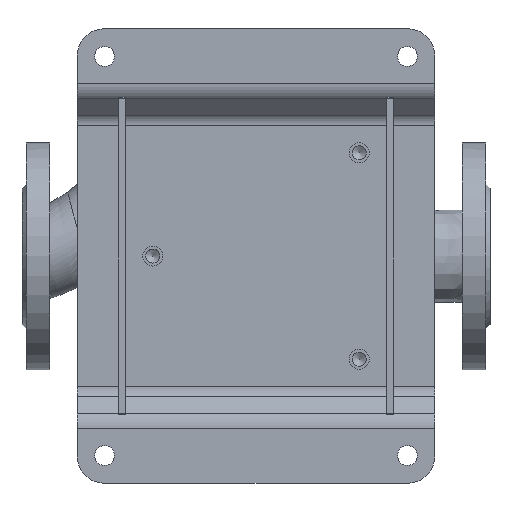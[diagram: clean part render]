
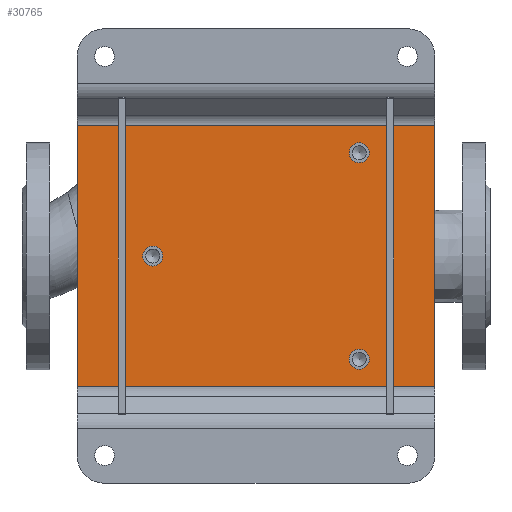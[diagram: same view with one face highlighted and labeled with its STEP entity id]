
A CAD part, top view. The second image highlights one B-rep face of the part: STEP entity #30765.
In plain terms, the highlighted planar face has unit normal (0, 0, 1) as drawn and (0, -1, 0) by its records, which use the part's own axes.
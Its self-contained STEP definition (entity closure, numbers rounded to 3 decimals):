
#36 = DIRECTION ( 'NONE',  ( 0., 0., -1. ) ) ;
#175 = DIRECTION ( 'NONE',  ( 0., 0., -1. ) ) ;
#216 = VECTOR ( 'NONE', #14994, 1000. ) ;
#1521 = VERTEX_POINT ( 'NONE', #12233 ) ;
#2152 = EDGE_LOOP ( 'NONE', ( #33842, #4675, #31597, #31366 ) ) ;
#2689 = CARTESIAN_POINT ( 'NONE',  ( 0., -5., 0. ) ) ;
#3160 = CIRCLE ( 'NONE', #8203, 7.25 ) ;
#3337 = FACE_OUTER_BOUND ( 'NONE', #2152, .T. ) ;
#4561 = CARTESIAN_POINT ( 'NONE',  ( 75., -5., 67.75 ) ) ;
#4675 = ORIENTED_EDGE ( 'NONE', *, *, #42482, .F. ) ;
#5789 = VERTEX_POINT ( 'NONE', #40546 ) ;
#6502 = DIRECTION ( 'NONE',  ( 0., -1., 0. ) ) ;
#6795 = CARTESIAN_POINT ( 'NONE',  ( 0., -5., -75. ) ) ;
#6915 = DIRECTION ( 'NONE',  ( 1., 0., 0. ) ) ;
#7403 = EDGE_CURVE ( 'NONE', #20119, #20119, #26560, .T. ) ;
#8203 = AXIS2_PLACEMENT_3D ( 'NONE', #24260, #40894, #175 ) ;
#8483 = CIRCLE ( 'NONE', #41476, 7.25 ) ;
#11239 = VECTOR ( 'NONE', #42030, 1000. ) ;
#12233 = CARTESIAN_POINT ( 'NONE',  ( -95., -5., 130. ) ) ;
#13935 = EDGE_CURVE ( 'NONE', #35392, #35392, #8483, .T. ) ;
#14994 = DIRECTION ( 'NONE',  ( 0., 0., -1. ) ) ;
#15113 = DIRECTION ( 'NONE',  ( 0., -1., 0. ) ) ;
#15263 = ORIENTED_EDGE ( 'NONE', *, *, #13935, .F. ) ;
#15395 = VERTEX_POINT ( 'NONE', #42826 ) ;
#15611 = VECTOR ( 'NONE', #6915, 1000. ) ;
#17107 = LINE ( 'NONE', #24539, #24722 ) ;
#17489 = EDGE_LOOP ( 'NONE', ( #15263 ) ) ;
#19810 = CARTESIAN_POINT ( 'NONE',  ( 95., -5., 130. ) ) ;
#20119 = VERTEX_POINT ( 'NONE', #30443 ) ;
#20532 = DIRECTION ( 'NONE',  ( 0., -1., 0. ) ) ;
#22311 = ORIENTED_EDGE ( 'NONE', *, *, #7403, .F. ) ;
#22755 = FACE_BOUND ( 'NONE', #17489, .T. ) ;
#22972 = FACE_BOUND ( 'NONE', #23317, .T. ) ;
#23317 = EDGE_LOOP ( 'NONE', ( #22311 ) ) ;
#23618 = PLANE ( 'NONE',  #33417 ) ;
#23856 = EDGE_CURVE ( 'NONE', #33437, #5789, #41737, .T. ) ;
#24260 = CARTESIAN_POINT ( 'NONE',  ( -75., -5., 75. ) ) ;
#24539 = CARTESIAN_POINT ( 'NONE',  ( -95., -5., -130. ) ) ;
#24722 = VECTOR ( 'NONE', #41841, 1000. ) ;
#24937 = LINE ( 'NONE', #31654, #15611 ) ;
#25537 = EDGE_CURVE ( 'NONE', #5789, #31744, #17107, .T. ) ;
#26560 = CIRCLE ( 'NONE', #27946, 7.25 ) ;
#26562 = DIRECTION ( 'NONE',  ( 0., 0., -1. ) ) ;
#27946 = AXIS2_PLACEMENT_3D ( 'NONE', #6795, #20532, #36 ) ;
#28311 = CARTESIAN_POINT ( 'NONE',  ( -95., -5., 130. ) ) ;
#28757 = EDGE_CURVE ( 'NONE', #15395, #15395, #3160, .T. ) ;
#29275 = DIRECTION ( 'NONE',  ( 0., 0., -1. ) ) ;
#30443 = CARTESIAN_POINT ( 'NONE',  ( 0., -5., -82.25 ) ) ;
#30502 = CARTESIAN_POINT ( 'NONE',  ( 95., -5., 130. ) ) ;
#30765 = ADVANCED_FACE ( 'NONE', ( #22755, #22972, #33302, #3337 ), #23618, .T. ) ;
#31366 = ORIENTED_EDGE ( 'NONE', *, *, #25537, .F. ) ;
#31496 = CARTESIAN_POINT ( 'NONE',  ( -95., -5., -130. ) ) ;
#31597 = ORIENTED_EDGE ( 'NONE', *, *, #42039, .F. ) ;
#31654 = CARTESIAN_POINT ( 'NONE',  ( -95., -5., 130. ) ) ;
#31744 = VERTEX_POINT ( 'NONE', #31496 ) ;
#33302 = FACE_BOUND ( 'NONE', #35728, .T. ) ;
#33417 = AXIS2_PLACEMENT_3D ( 'NONE', #2689, #6502, #26562 ) ;
#33437 = VERTEX_POINT ( 'NONE', #19810 ) ;
#33842 = ORIENTED_EDGE ( 'NONE', *, *, #23856, .F. ) ;
#35333 = CARTESIAN_POINT ( 'NONE',  ( 75., -5., 75. ) ) ;
#35392 = VERTEX_POINT ( 'NONE', #4561 ) ;
#35728 = EDGE_LOOP ( 'NONE', ( #37351 ) ) ;
#37351 = ORIENTED_EDGE ( 'NONE', *, *, #28757, .F. ) ;
#40546 = CARTESIAN_POINT ( 'NONE',  ( 95., -5., -130. ) ) ;
#40894 = DIRECTION ( 'NONE',  ( 0., -1., 0. ) ) ;
#41476 = AXIS2_PLACEMENT_3D ( 'NONE', #35333, #15113, #29275 ) ;
#41737 = LINE ( 'NONE', #30502, #216 ) ;
#41841 = DIRECTION ( 'NONE',  ( -1., 0., 0. ) ) ;
#42030 = DIRECTION ( 'NONE',  ( 0., 0., 1. ) ) ;
#42039 = EDGE_CURVE ( 'NONE', #31744, #1521, #42262, .T. ) ;
#42262 = LINE ( 'NONE', #28311, #11239 ) ;
#42482 = EDGE_CURVE ( 'NONE', #1521, #33437, #24937, .T. ) ;
#42826 = CARTESIAN_POINT ( 'NONE',  ( -75., -5., 67.75 ) ) ;
